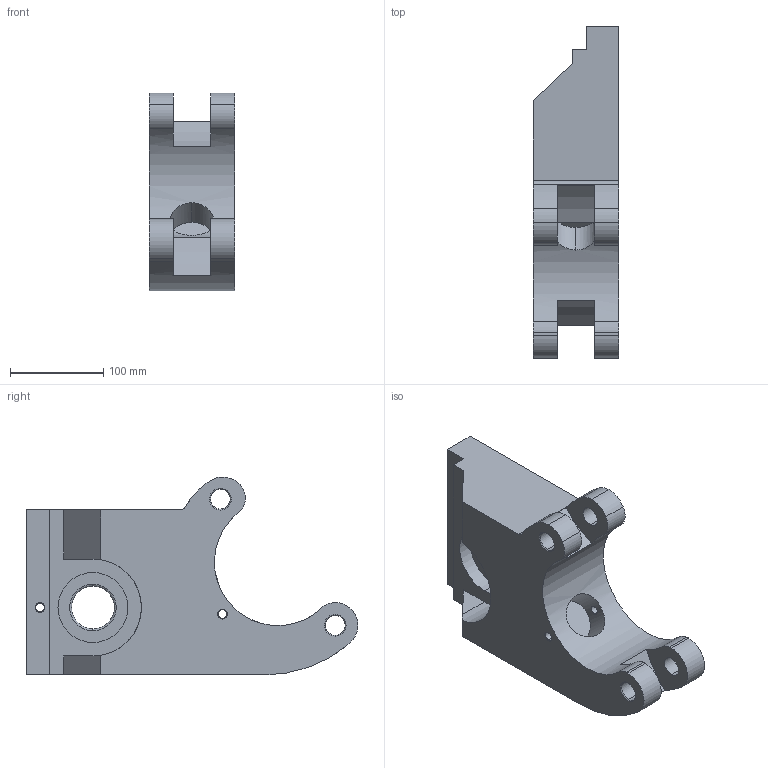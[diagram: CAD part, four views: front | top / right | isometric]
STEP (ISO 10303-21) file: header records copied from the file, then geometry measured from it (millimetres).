
FILE_DESCRIPTION (( 'STEP AP203' ), '1' );
FILE_NAME ('YYDK-500-0033-1-A 支架连接块（500T）右侧.STEP', '2026-04-21T08:20:33', ( 'Windows 用户' ), ( '' ), 'SwSTEP 2.0', 'SolidWorks 2020', '' );
FILE_SCHEMA (( 'CONFIG_CONTROL_DESIGN' ));
Length unit declared in the file: millimetre
Products named in the file (1): YYDK-500-0033-1-A 支架连接块（500T）右侧
Bounding box: 92 x 355.96 x 212.23 mm (x, y, z)
Volume: 3128510.6 mm3; surface area: 212989.8 mm2
Topology: 1 solids, 1 shells, 80 faces, 211 edges, 136 vertices
Faces by surface type: cylinder 47, plane 19, cone 10, torus 4
Entity records: 3212 total; most frequent: CARTESIAN_POINT 1064, DIRECTION 455, ORIENTED_EDGE 422, EDGE_CURVE 211, AXIS2_PLACEMENT_3D 183, VERTEX_POINT 136, EDGE_LOOP 103, CIRCLE 102
